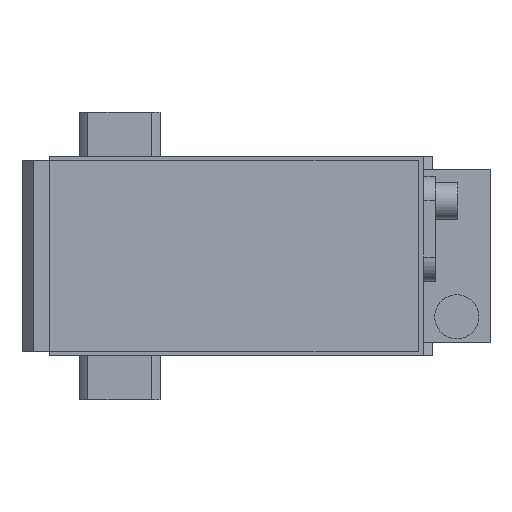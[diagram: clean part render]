
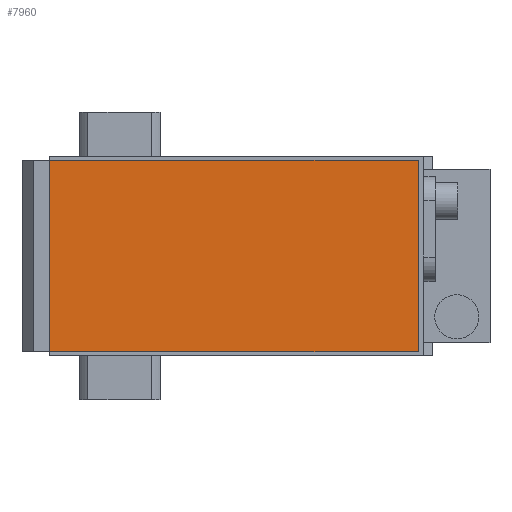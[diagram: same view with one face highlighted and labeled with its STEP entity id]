
A CAD part, front view. The second image highlights one B-rep face of the part: STEP entity #7960.
In plain terms, the highlighted planar face has unit normal (0, -1, 0).
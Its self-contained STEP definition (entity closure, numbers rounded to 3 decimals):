
#235 = EDGE_CURVE ( 'NONE', #5352, #3260, #1316, .T. ) ;
#294 = VECTOR ( 'NONE', #9338, 1000. ) ;
#560 = AXIS2_PLACEMENT_3D ( 'NONE', #3952, #7128, #10320 ) ;
#767 = PLANE ( 'NONE',  #560 ) ;
#1132 = EDGE_LOOP ( 'NONE', ( #4101, #9760, #7352, #3389 ) ) ;
#1137 = CARTESIAN_POINT ( 'NONE',  ( -19., -286.5, 26. ) ) ;
#1316 = LINE ( 'NONE', #5952, #4698 ) ;
#1357 = CARTESIAN_POINT ( 'NONE',  ( 81., -286.5, 26. ) ) ;
#1421 = CARTESIAN_POINT ( 'NONE',  ( 81., -286.5, -26. ) ) ;
#2006 = DIRECTION ( 'NONE',  ( -1., 0., 0. ) ) ;
#2544 = VERTEX_POINT ( 'NONE', #1421 ) ;
#2573 = DIRECTION ( 'NONE',  ( 1., 0., 0. ) ) ;
#2692 = LINE ( 'NONE', #5871, #8378 ) ;
#2740 = EDGE_CURVE ( 'NONE', #3260, #2544, #5013, .T. ) ;
#2825 = DIRECTION ( 'NONE',  ( 0., 0., -1. ) ) ;
#2904 = EDGE_CURVE ( 'NONE', #2544, #6252, #6060, .T. ) ;
#3260 = VERTEX_POINT ( 'NONE', #6098 ) ;
#3389 = ORIENTED_EDGE ( 'NONE', *, *, #8148, .T. ) ;
#3952 = CARTESIAN_POINT ( 'NONE',  ( 0., -286.5, 0. ) ) ;
#4026 = CARTESIAN_POINT ( 'NONE',  ( 81., -286.5, 26. ) ) ;
#4101 = ORIENTED_EDGE ( 'NONE', *, *, #235, .T. ) ;
#4698 = VECTOR ( 'NONE', #2825, 1000. ) ;
#4724 = FACE_OUTER_BOUND ( 'NONE', #1132, .T. ) ;
#5013 = LINE ( 'NONE', #5118, #6798 ) ;
#5118 = CARTESIAN_POINT ( 'NONE',  ( -19., -286.5, -26. ) ) ;
#5352 = VERTEX_POINT ( 'NONE', #1137 ) ;
#5871 = CARTESIAN_POINT ( 'NONE',  ( -19., -286.5, 26. ) ) ;
#5952 = CARTESIAN_POINT ( 'NONE',  ( -19., -286.5, 26. ) ) ;
#6060 = LINE ( 'NONE', #1357, #294 ) ;
#6098 = CARTESIAN_POINT ( 'NONE',  ( -19., -286.5, -26. ) ) ;
#6252 = VERTEX_POINT ( 'NONE', #4026 ) ;
#6798 = VECTOR ( 'NONE', #2573, 1000. ) ;
#7128 = DIRECTION ( 'NONE',  ( 0., -1., 0. ) ) ;
#7352 = ORIENTED_EDGE ( 'NONE', *, *, #2904, .T. ) ;
#7960 = ADVANCED_FACE ( 'NONE', ( #4724 ), #767, .T. ) ;
#8148 = EDGE_CURVE ( 'NONE', #6252, #5352, #2692, .T. ) ;
#8378 = VECTOR ( 'NONE', #2006, 1000. ) ;
#9338 = DIRECTION ( 'NONE',  ( 0., 0., 1. ) ) ;
#9760 = ORIENTED_EDGE ( 'NONE', *, *, #2740, .T. ) ;
#10320 = DIRECTION ( 'NONE',  ( 0., 0., -1. ) ) ;
